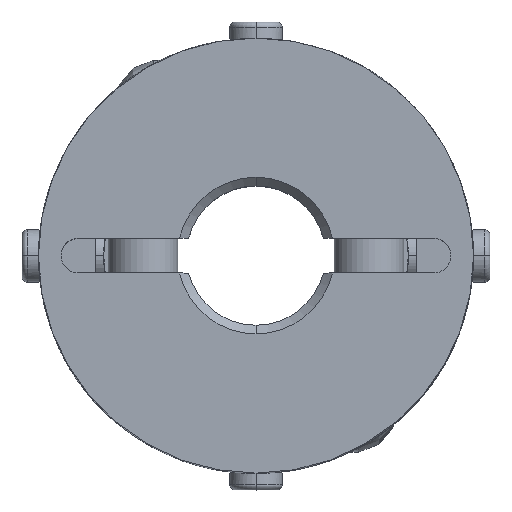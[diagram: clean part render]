
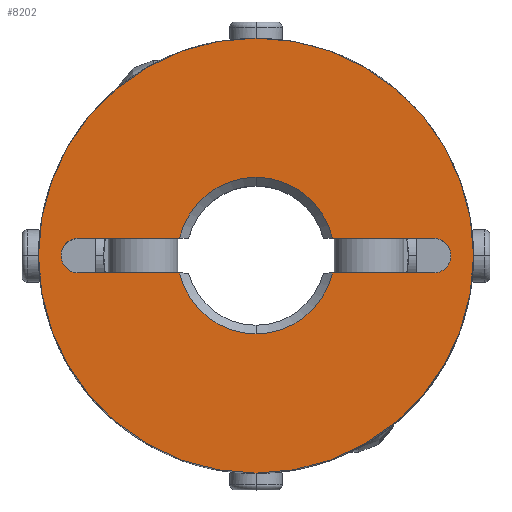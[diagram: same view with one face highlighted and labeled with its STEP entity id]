
A CAD part, top view. The second image highlights one B-rep face of the part: STEP entity #8202.
In plain terms, the highlighted planar face has unit normal (0, 0, 1).
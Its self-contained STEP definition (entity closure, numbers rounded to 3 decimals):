
#885=CARTESIAN_POINT('',(0.,12.5,13.5));
#886=VERTEX_POINT('',#885);
#893=CARTESIAN_POINT('',(0.,-12.5,13.5));
#894=VERTEX_POINT('',#893);
#895=CARTESIAN_POINT('',(0.,0.0,13.5));
#896=DIRECTION('',(0.0,0.0,-1.0));
#897=DIRECTION('',(0.0,-1.0,0.0));
#898=AXIS2_PLACEMENT_3D('',#895,#896,#897);
#899=CIRCLE('',#898,12.5);
#900=EDGE_CURVE('',#886,#894,#899,.T.);
#1153=CARTESIAN_POINT('',(10.907,0.707,13.5));
#1154=VERTEX_POINT('',#1153);
#1170=CARTESIAN_POINT('',(10.2,-1.,13.5));
#1171=VERTEX_POINT('',#1170);
#1178=CARTESIAN_POINT('',(10.2,0.,13.5));
#1179=DIRECTION('',(0.0,0.0,1.0));
#1180=DIRECTION('',(0.707,-0.707,0.0));
#1181=AXIS2_PLACEMENT_3D('',#1178,#1179,#1180);
#1182=CIRCLE('',#1181,1.0);
#1183=EDGE_CURVE('',#1171,#1154,#1182,.T.);
#1195=CARTESIAN_POINT('',(-10.907,-0.707,13.5));
#1196=VERTEX_POINT('',#1195);
#1212=CARTESIAN_POINT('',(-10.2,1.,13.5));
#1213=VERTEX_POINT('',#1212);
#1220=CARTESIAN_POINT('',(-10.2,0.,13.5));
#1221=DIRECTION('',(0.0,0.0,1.0));
#1222=DIRECTION('',(-0.707,0.707,0.0));
#1223=AXIS2_PLACEMENT_3D('',#1220,#1221,#1222);
#1224=CIRCLE('',#1223,1.0);
#1225=EDGE_CURVE('',#1213,#1196,#1224,.T.);
#1235=CARTESIAN_POINT('',(0.,4.5,13.5));
#1236=VERTEX_POINT('',#1235);
#1244=CARTESIAN_POINT('',(4.387,1.,13.5));
#1245=VERTEX_POINT('',#1244);
#1259=CARTESIAN_POINT('',(0.,0.0,13.5));
#1260=DIRECTION('',(0.0,0.0,1.0));
#1261=DIRECTION('',(0.0,1.0,0.0));
#1262=AXIS2_PLACEMENT_3D('',#1259,#1260,#1261);
#1263=CIRCLE('',#1262,4.5);
#1264=EDGE_CURVE('',#1245,#1236,#1263,.T.);
#1276=CARTESIAN_POINT('',(0.,-4.5,13.5));
#1277=VERTEX_POINT('',#1276);
#1293=CARTESIAN_POINT('',(-4.387,-1.,13.5));
#1294=VERTEX_POINT('',#1293);
#1308=CARTESIAN_POINT('',(0.,0.0,13.5));
#1309=DIRECTION('',(0.0,0.0,1.0));
#1310=DIRECTION('',(0.0,-1.0,0.0));
#1311=AXIS2_PLACEMENT_3D('',#1308,#1309,#1310);
#1312=CIRCLE('',#1311,4.5);
#1313=EDGE_CURVE('',#1294,#1277,#1312,.T.);
#7994=CARTESIAN_POINT('',(-10.2,-1.,13.5));
#7995=VERTEX_POINT('',#7994);
#8002=CARTESIAN_POINT('',(-4.387,-1.,13.5));
#8003=DIRECTION('',(-1.0,0.0,0.0));
#8004=VECTOR('',#8003,5.813);
#8005=LINE('',#8002,#8004);
#8006=EDGE_CURVE('',#1294,#7995,#8005,.T.);
#8063=CARTESIAN_POINT('',(-4.387,1.,13.5));
#8064=VERTEX_POINT('',#8063);
#8078=CARTESIAN_POINT('',(-10.2,1.,13.5));
#8079=DIRECTION('',(1.0,0.0,0.0));
#8080=VECTOR('',#8079,5.813);
#8081=LINE('',#8078,#8080);
#8082=EDGE_CURVE('',#1213,#8064,#8081,.T.);
#8099=CARTESIAN_POINT('',(4.387,-1.,13.5));
#8100=VERTEX_POINT('',#8099);
#8101=CARTESIAN_POINT('',(0.,0.0,13.5));
#8102=DIRECTION('',(0.0,0.0,1.0));
#8103=DIRECTION('',(0.0,-1.0,0.0));
#8104=AXIS2_PLACEMENT_3D('',#8101,#8102,#8103);
#8105=CIRCLE('',#8104,4.5);
#8106=EDGE_CURVE('',#1277,#8100,#8105,.T.);
#8133=CARTESIAN_POINT('',(10.2,-1.,13.5));
#8134=DIRECTION('',(-1.0,0.0,0.0));
#8135=VECTOR('',#8134,5.813);
#8136=LINE('',#8133,#8135);
#8137=EDGE_CURVE('',#1171,#8100,#8136,.T.);
#8148=CARTESIAN_POINT('',(0.,-1.136,13.5));
#8149=DIRECTION('',(0.0,0.0,1.0));
#8150=DIRECTION('',(0.0,-1.0,0.0));
#8151=AXIS2_PLACEMENT_3D('',#8148,#8149,#8150);
#8152=PLANE('',#8151);
#8153=CARTESIAN_POINT('',(0.,0.0,13.5));
#8154=DIRECTION('',(0.0,0.0,-1.0));
#8155=DIRECTION('',(0.0,-1.0,0.0));
#8156=AXIS2_PLACEMENT_3D('',#8153,#8154,#8155);
#8157=CIRCLE('',#8156,12.5);
#8158=EDGE_CURVE('',#894,#886,#8157,.T.);
#8159=ORIENTED_EDGE('',*,*,#8158,.F.);
#8160=ORIENTED_EDGE('',*,*,#900,.F.);
#8161=EDGE_LOOP('',(#8159,#8160));
#8162=FACE_OUTER_BOUND('',#8161,.T.);
#8163=ORIENTED_EDGE('',*,*,#1313,.F.);
#8164=ORIENTED_EDGE('',*,*,#8006,.T.);
#8165=CARTESIAN_POINT('',(-10.2,0.,13.5));
#8166=DIRECTION('',(0.0,0.0,1.0));
#8167=DIRECTION('',(-0.707,0.707,0.0));
#8168=AXIS2_PLACEMENT_3D('',#8165,#8166,#8167);
#8169=CIRCLE('',#8168,1.0);
#8170=EDGE_CURVE('',#1196,#7995,#8169,.T.);
#8171=ORIENTED_EDGE('',*,*,#8170,.F.);
#8172=ORIENTED_EDGE('',*,*,#1225,.F.);
#8173=ORIENTED_EDGE('',*,*,#8082,.T.);
#8174=CARTESIAN_POINT('',(0.,0.0,13.5));
#8175=DIRECTION('',(0.0,0.0,1.0));
#8176=DIRECTION('',(0.0,1.0,0.0));
#8177=AXIS2_PLACEMENT_3D('',#8174,#8175,#8176);
#8178=CIRCLE('',#8177,4.5);
#8179=EDGE_CURVE('',#1236,#8064,#8178,.T.);
#8180=ORIENTED_EDGE('',*,*,#8179,.F.);
#8181=ORIENTED_EDGE('',*,*,#1264,.F.);
#8182=CARTESIAN_POINT('',(10.2,1.,13.5));
#8183=VERTEX_POINT('',#8182);
#8184=CARTESIAN_POINT('',(4.387,1.,13.5));
#8185=DIRECTION('',(1.0,0.0,0.0));
#8186=VECTOR('',#8185,5.813);
#8187=LINE('',#8184,#8186);
#8188=EDGE_CURVE('',#1245,#8183,#8187,.T.);
#8189=ORIENTED_EDGE('',*,*,#8188,.T.);
#8190=CARTESIAN_POINT('',(10.2,0.,13.5));
#8191=DIRECTION('',(0.0,0.0,1.0));
#8192=DIRECTION('',(0.707,-0.707,0.0));
#8193=AXIS2_PLACEMENT_3D('',#8190,#8191,#8192);
#8194=CIRCLE('',#8193,1.0);
#8195=EDGE_CURVE('',#1154,#8183,#8194,.T.);
#8196=ORIENTED_EDGE('',*,*,#8195,.F.);
#8197=ORIENTED_EDGE('',*,*,#1183,.F.);
#8198=ORIENTED_EDGE('',*,*,#8137,.T.);
#8199=ORIENTED_EDGE('',*,*,#8106,.F.);
#8200=EDGE_LOOP('',(#8163,#8164,#8171,#8172,#8173,#8180,#8181,#8189,#8196,#8197,#8198,#8199));
#8201=FACE_BOUND('',#8200,.T.);
#8202=ADVANCED_FACE('',(#8162,#8201),#8152,.T.);
